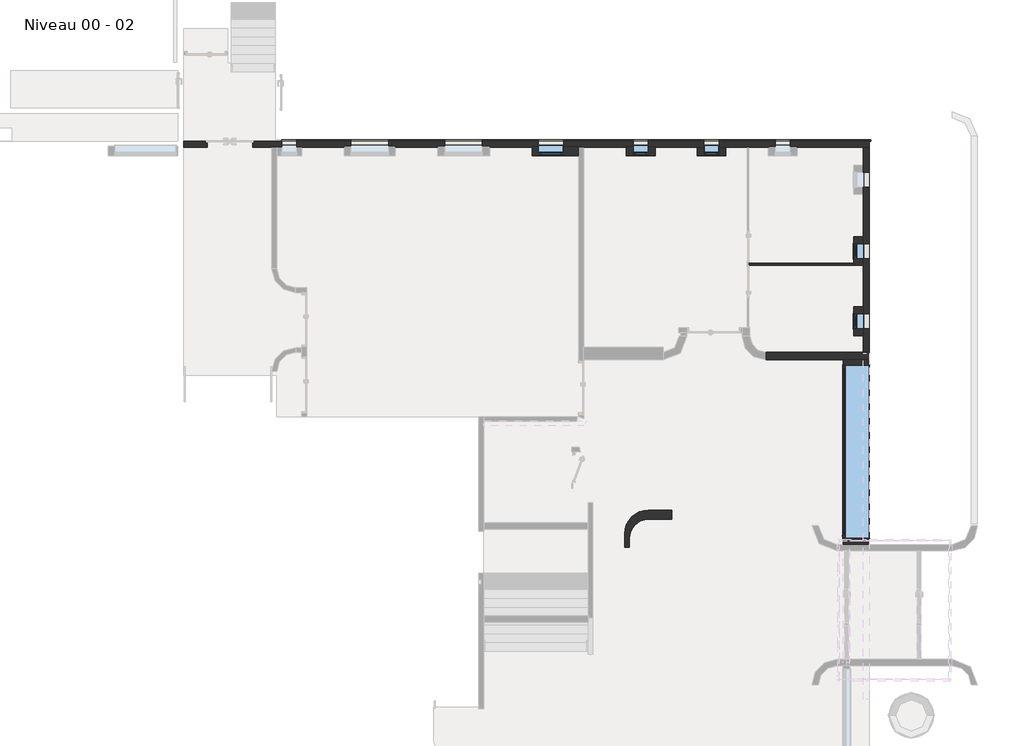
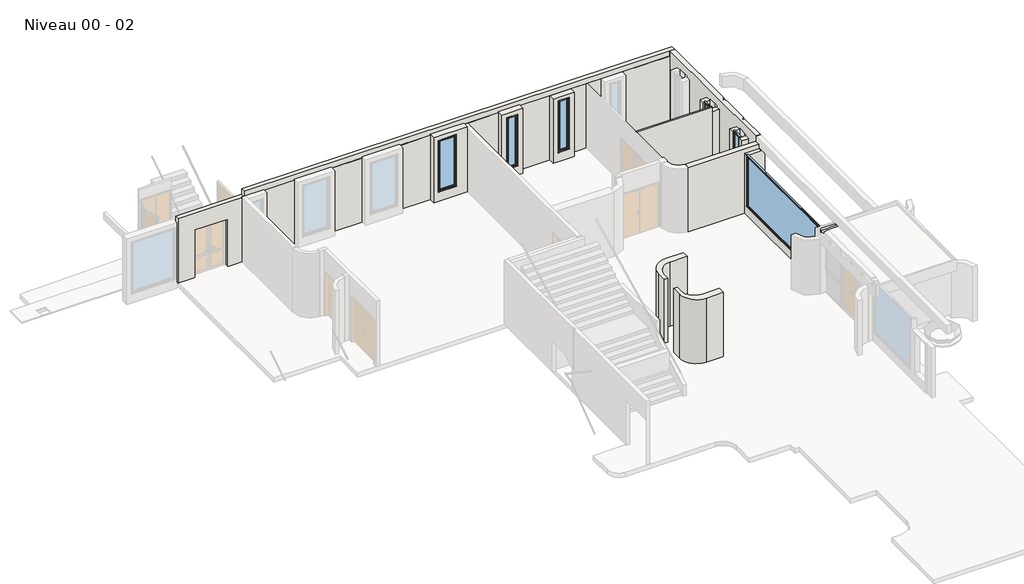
# One storey, part 5 of 6: 12 walls, 6 windows.
"""IFC4 building model written with IfcOpenShell, lengths in millimetres."""

from ifc_helpers import new_model, si_unit, frame, origin, place, context, project, spatial, polyline, circle_curve, outline, extrude, faceted_brep, transform, mapped, element, save
from ifc_brep_helpers import plane_surface, cylinder_surface, advanced_brep
from components import wall_421f56db, window_48_x_240_cm_3727ab81, window_550_x_245_cm_1fba9d42, window_80_x_240_cm_e62f5820

model = new_model("IFC4")

# Units and contexts
model_context = context("Model", 3, world=origin())
ifc_project = project(units=[si_unit("LENGTHUNIT", "METRE", prefix="MILLI")], contexts=[model_context])

# Site, building, storey
site = spatial("IfcSite", under=ifc_project)
building = spatial("IfcBuilding", under=site)
storey = spatial("IfcBuildingStorey", under=building, Name="Niveau 00 - 02", Elevation=893.3082742)

# Walls
placement = place(None, origin())
element("IfcWall", 1, ObjectType="Mur EXE 250- Hach", at=placement, inside=storey, context=model_context, shape_type="SweptSolid", body=[
    extrude(outline(polyline([(893.3082742, 3047.4682683), (3871.8727639, 3047.4682683), (3871.8727639, 2847.4682683), (3871.8727639, -249.7174369), (893.3082742, -249.7174369), (893.3082742, 3047.4682683)])), frame((0.0, 3820.8848607, 0.0), z_axis=(0.0, 1.0, 0.0), x_axis=(0.0, 0.0, 1.0)), (0.0, 0.0, 1.0), 250.0),
])
element("IfcWall", 2, ObjectType="Mur EXE 40- Hach", at=placement, inside=storey, context=model_context, shape_type="Brep", body=[
    faceted_brep([(-15635.8209314, 10780.8848589, 893.3082742), (3047.4682685, 10780.8848589, 893.3082742), (3087.4682683, 10780.8848589, 893.3082742), (3087.4682683, 10780.8848589, 3723.3082742), (3087.4682683, 10780.8848589, 3741.8727639), (-15635.8209314, 10780.8848589, 3741.8727639), (-15635.8209314, 10780.8848589, 3723.3082742), (-15155.8209314, 10780.8848589, 3723.3082742), (-15155.8209314, 10780.8848589, 1323.3082742), (-15635.8209314, 10780.8848589, 1323.3082742), (-12233.9891646, 10780.8848589, 1323.3082742), (-13433.9891646, 10780.8848589, 1323.3082742), (-13433.9891646, 10780.8848589, 3723.3082742), (-12233.9891646, 10780.8848589, 3723.3082742), (-9255.2048789, 10780.8848589, 1323.3082742), (-10455.2048789, 10780.8848589, 1323.3082742), (-10455.2048789, 10780.8848589, 3723.3082742), (-9255.2048789, 10780.8848589, 3723.3082742), (-6675.2048771, 10780.8848589, 1323.3082742), (-7475.2048771, 10780.8848589, 1323.3082742), (-7475.2048771, 10780.8848589, 3723.3082742), (-6675.2048771, 10780.8848589, 3723.3082742), (-3981.2458924, 10780.8848589, 1323.3082742), (-4461.2458924, 10780.8848589, 1323.3082742), (-4461.2458924, 10780.8848589, 3723.3082742), (-3981.2458924, 10780.8848589, 3723.3082742), (530.2678454, 10780.8848589, 1323.3082742), (50.2678454, 10780.8848589, 1323.3082742), (50.2678454, 10780.8848589, 3723.3082742), (530.2678454, 10780.8848589, 3723.3082742), (-1730.6732266, 10780.8848589, 1323.3082742), (-2210.6732266, 10780.8848589, 1323.3082742), (-2210.6732266, 10780.8848589, 3723.3082742), (-1730.6732266, 10780.8848589, 3723.3082742), (3087.4682683, 10820.8848589, 893.3082742), (-15635.8209314, 10820.8848589, 893.3082742), (-15635.8209314, 10820.8848589, 1323.3082742), (-15155.8209314, 10820.8848589, 1323.3082742), (-15155.8209314, 10820.8848589, 3723.3082742), (-15635.8209314, 10820.8848589, 3723.3082742), (-15635.8209314, 10820.8848589, 3741.8727639), (3087.4682683, 10820.8848589, 3741.8727639), (-12233.9891646, 10820.8848589, 1323.3082742), (-12233.9891646, 10820.8848589, 3723.3082742), (-13433.9891646, 10820.8848589, 3723.3082742), (-13433.9891646, 10820.8848589, 1323.3082742), (-9255.2048789, 10820.8848589, 1323.3082742), (-9255.2048789, 10820.8848589, 3723.3082742), (-10455.2048789, 10820.8848589, 3723.3082742), (-10455.2048789, 10820.8848589, 1323.3082742), (-6675.2048771, 10820.8848589, 1323.3082742), (-6675.2048771, 10820.8848589, 3723.3082742), (-7475.2048771, 10820.8848589, 3723.3082742), (-7475.2048771, 10820.8848589, 1323.3082742), (-3981.2458924, 10820.8848589, 1323.3082742), (-3981.2458924, 10820.8848589, 3723.3082742), (-4461.2458924, 10820.8848589, 3723.3082742), (-4461.2458924, 10820.8848589, 1323.3082742), (530.2678454, 10820.8848589, 1323.3082742), (530.2678454, 10820.8848589, 3723.3082742), (50.2678454, 10820.8848589, 3723.3082742), (50.2678454, 10820.8848589, 1323.3082742), (-1730.6732266, 10820.8848589, 1323.3082742), (-1730.6732266, 10820.8848589, 3723.3082742), (-2210.6732266, 10820.8848589, 3723.3082742), (-2210.6732266, 10820.8848589, 1323.3082742)], [[[0, 1, 2, 3, 4, 5, 6, 7, 8, 9], [10, 11, 12, 13], [14, 15, 16, 17], [18, 19, 20, 21], [22, 23, 24, 25], [26, 27, 28, 29], [30, 31, 32, 33]], [[34, 35, 36, 37, 38, 39, 40, 41], [42, 43, 44, 45], [46, 47, 48, 49], [50, 51, 52, 53], [54, 55, 56, 57], [58, 59, 60, 61], [62, 63, 64, 65]], [[2, 1, 0, 35, 34]], [[5, 4, 41, 40]], [[4, 3, 2, 34, 41]], [[5, 40, 39, 6]], [[35, 0, 9, 36]], [[43, 42, 10, 13]], [[44, 43, 13, 12]], [[45, 44, 12, 11]], [[42, 45, 11, 10]], [[47, 46, 14, 17]], [[48, 47, 17, 16]], [[49, 48, 16, 15]], [[46, 49, 15, 14]], [[51, 50, 18, 21]], [[52, 51, 21, 20]], [[53, 52, 20, 19]], [[50, 53, 19, 18]], [[55, 54, 22, 25]], [[56, 55, 25, 24]], [[57, 56, 24, 23]], [[54, 57, 23, 22]], [[59, 58, 26, 29]], [[60, 59, 29, 28]], [[61, 60, 28, 27]], [[58, 61, 27, 26]], [[63, 62, 30, 33]], [[64, 63, 33, 32]], [[65, 64, 32, 31]], [[62, 65, 31, 30]], [[37, 8, 7, 38]], [[38, 7, 6, 39]], [[8, 37, 36, 9]]]),
])
element("IfcWall", 3, ObjectType="Mur EXE 800- Hach 2 faces", at=placement, inside=storey, context=model_context, shape_type="Brep", body=[
    faceted_brep([(3020.3283813, -2049.6253919, 893.3082742), (3020.3283813, 3820.8848607, 893.3082742), (3020.3283813, 3820.8848607, 3673.3082742), (3020.3283813, 3655.8848612, 3673.3082742), (3020.3283813, 3655.8848612, 1313.3082742), (3020.3283813, -1844.1151388, 1313.3082742), (3020.3283813, -1844.1151388, 3673.3082742), (3020.3283813, -2049.6253919, 3673.3082742), (2220.3283813, 3820.8848607, 893.3082742), (2220.3283813, -2049.6253919, 893.3082742), (2220.3283813, -2049.6253919, 3673.3082742), (2220.3283813, -1844.1151388, 3673.3082742), (2220.3283813, -1844.1151388, 1313.3082742), (2220.3283813, 3655.8848612, 1313.3082742), (2220.3283813, 3655.8848612, 3673.3082742), (2220.3283813, 3820.8848607, 3673.3082742), (2847.4682686, -1844.1151388, 3673.3082742), (2847.4682686, 3655.8848612, 3673.3082742), (2847.4682686, -2049.6253919, 3673.3082742), (2847.4682686, 3820.8848607, 3673.3082742)], [[[0, 1, 2, 3, 4, 5, 6, 7]], [[8, 9, 10, 11, 12, 13, 14, 15]], [[1, 0, 9, 8]], [[5, 12, 11, 16, 6]], [[13, 4, 3, 17, 14]], [[12, 5, 4, 13]], [[0, 7, 18, 10, 9]], [[2, 1, 8, 15, 19]], [[15, 14, 17, 19]], [[18, 7, 6, 16]], [[3, 2, 19, 17]], [[10, 18, 16, 11]]]),
])
element("IfcWall", 4, ObjectType="Mur EXE 300- Hach 2 faces", at=placement, inside=storey, context=model_context, shape_type="SweptSolid", body=[
    extrude(outline(polyline([(5512.2622814, 893.3082742), (4592.2622813, 893.3082742), (4592.2622813, 3673.3082742), (4812.2622814, 3673.3082742), (4812.2622814, 1323.3082742), (5292.2622814, 1323.3082742), (5292.2622814, 3673.3082742), (5512.2622814, 3673.3082742), (5512.2622814, 893.3082742)])), frame((2547.4682683, 0.0, 0.0), z_axis=(1.0, 0.0, 0.0), x_axis=(0.0, 1.0, 0.0)), (0.0, 0.0, 1.0), 300.0),
])
element("IfcWall", 5, ObjectType="Mur EXE 300- Hach 2 faces", at=placement, inside=storey, context=model_context, shape_type="SweptSolid", body=[
    extrude(outline(polyline([(7741.4784954, 893.3082742), (6830.6817128, 893.3082742), (6830.6817128, 3673.3082742), (7041.4784953, 3673.3082742), (7041.4784953, 1323.3082742), (7521.4784953, 1323.3082742), (7521.4784953, 3673.3082742), (7741.4784954, 3673.3082742), (7741.4784954, 893.3082742)])), frame((2547.4682683, 0.0, 0.0), z_axis=(1.0, 0.0, 0.0), x_axis=(0.0, 1.0, 0.0)), (0.0, 0.0, 1.0), 300.0),
])
element("IfcWall", 6, ObjectType="@_Générique - Int. 70 mm", at=placement, inside=storey, context=model_context, shape_type="SweptSolid", body=[
    extrude(outline(polyline([(2547.4682683, 6830.6817128), (-778.7390428, 6830.6817128), (-778.7390428, 6900.6817128), (2547.4682683, 6900.6817128), (2547.4682683, 6830.6817128)])), frame((0.0, 0.0, 893.3082742), z_axis=(0.0, 0.0, 1.0), x_axis=(1.0, 0.0, 0.0)), (0.0, 0.0, 1.0), 2978.5644896),
])
wall_shape = wall_421f56db(model_context)
element("IfcWall", 7, ObjectType="Murs 1 : Murs 1", at=placement, inside=storey, context=model_context, shape_type="MappedRepresentation", body=[
    mapped(wall_shape, transform((0.0, 0.0, 0.0), x_axis=(1.0, 0.0, 0.0), y_axis=(0.0, 1.0, 0.0), z_axis=(0.0, 0.0, 1.0))),
])
element("IfcWall", 8, ObjectType="Ext. Voile BA 200", at=placement, inside=storey, context=model_context, shape_type="Brep", body=[
    faceted_brep([(3047.4682685, 10780.8848589, 4121.8727639), (3047.4682685, 10780.8848589, 893.3082742), (-15635.8209314, 10780.8848589, 893.3082742), (-16518.4367882, 10780.8848589, 893.3082742), (-16518.4367882, 10780.8848589, 3143.3082742), (-18048.4367882, 10780.8848589, 3143.3082742), (-18048.4367882, 10780.8848589, 893.3082742), (-18744.0938634, 10780.8848589, 893.3082742), (-18744.0938634, 10780.8848589, 3871.8727639), (-15835.8209314, 10780.8848589, 3871.8727639), (-15835.8209314, 10780.8848589, 4121.8727639), (-15635.8209314, 10780.8848589, 4121.8727639), (-12233.9891646, 10780.8848589, 1323.3082742), (-12233.9891646, 10780.8848589, 3723.3082742), (-13433.9891646, 10780.8848589, 3723.3082742), (-13433.9891646, 10780.8848589, 1323.3082742), (-9255.2048789, 10780.8848589, 1323.3082742), (-9255.2048789, 10780.8848589, 3723.3082742), (-10455.2048789, 10780.8848589, 3723.3082742), (-10455.2048789, 10780.8848589, 1323.3082742), (-6675.2048771, 10780.8848589, 1323.3082742), (-6675.2048771, 10780.8848589, 3723.3082742), (-7475.2048771, 10780.8848589, 3723.3082742), (-7475.2048771, 10780.8848589, 1323.3082742), (-3981.2458924, 10780.8848589, 1323.3082742), (-3981.2458924, 10780.8848589, 3723.3082742), (-4461.2458924, 10780.8848589, 3723.3082742), (-4461.2458924, 10780.8848589, 1323.3082742), (530.2678454, 10780.8848589, 1323.3082742), (530.2678454, 10780.8848589, 3723.3082742), (50.2678454, 10780.8848589, 3723.3082742), (50.2678454, 10780.8848589, 1323.3082742), (-1730.6732266, 10780.8848589, 1323.3082742), (-1730.6732266, 10780.8848589, 3723.3082742), (-2210.6732266, 10780.8848589, 3723.3082742), (-2210.6732266, 10780.8848589, 1323.3082742), (-15155.8209314, 10780.8848589, 1323.3082742), (-15155.8209314, 10780.8848589, 3723.3082742), (-15635.8209314, 10780.8848589, 3723.3082742), (-15635.8209314, 10780.8848589, 1323.3082742), (3047.4682685, 10580.8848589, 893.3082742), (3047.4682685, 10580.8848589, 4121.8727639), (2847.4682683, 10580.8848589, 4121.8727639), (2847.4682683, 10580.8848589, 3871.8727639), (750.2678454, 10580.8848589, 3871.8727639), (750.2678454, 10580.8848589, 893.3082742), (2847.4682685, 10580.8848589, 893.3082742), (-18008.4367882, 10580.8848589, 893.3082742), (-18008.4367882, 10580.8848589, 3103.3082742), (-16558.4367882, 10580.8848589, 3103.3082742), (-16558.4367882, 10580.8848589, 893.3082742), (-15943.9891644, 10580.8848589, 893.3082742), (-15793.9891644, 10580.8848589, 893.3082742), (-14993.9891654, 10580.8848589, 893.3082742), (-13643.9891658, 10580.8848589, 893.3082742), (-13643.9891658, 10580.8848589, 3871.8727639), (-18744.0938634, 10580.8848589, 3871.8727639), (-18744.0938634, 10580.8848589, 3653.3082742), (-18744.0938634, 10580.8848589, 893.3082742), (-15155.8209314, 10580.8848589, 3723.3082742), (-15155.8209314, 10580.8848589, 1323.3082742), (-15635.8209314, 10580.8848589, 1323.3082742), (-15635.8209314, 10580.8848589, 3723.3082742), (-12025.2048797, 10580.8848589, 3871.8727639), (-12025.2048797, 10580.8848589, 893.3082742), (-10675.2048782, 10580.8848589, 893.3082742), (-10675.2048782, 10580.8848589, 3871.8727639), (-9025.2048778, 10580.8848589, 3871.8727639), (-9025.2048778, 10580.8848589, 893.3082742), (-7675.2048763, 10580.8848589, 893.3082742), (-7675.2048763, 10580.8848589, 3871.8727639), (-3761.2458924, 10580.8848589, 3871.8727639), (-3761.2458924, 10580.8848589, 893.3082742), (-2430.6732267, 10580.8848589, 893.3082742), (-1510.6732268, 10580.8848589, 893.3082742), (-828.7390428, 10580.8848589, 893.3082742), (-778.7390428, 10580.8848589, 893.3082742), (-169.7321546, 10580.8848589, 893.3082742), (-169.7321546, 10580.8848589, 3871.8727639), (-778.7390428, 10580.8848589, 3871.8727639), (-828.7390428, 10580.8848589, 3871.8727639), (-1510.6732268, 10580.8848589, 3871.8727639), (-2430.6732267, 10580.8848589, 3871.8727639), (-1730.6732266, 10580.8848589, 3723.3082742), (-1730.6732266, 10580.8848589, 1323.3082742), (-2210.6732266, 10580.8848589, 1323.3082742), (-2210.6732266, 10580.8848589, 3723.3082742), (-6198.0226928, 10580.8848589, 3871.8727639), (-6198.0226928, 10580.8848589, 893.3082742), (-6038.0226928, 10580.8848589, 893.3082742), (-4681.2458924, 10580.8848589, 893.3082742), (-4681.2458924, 10580.8848589, 3871.8727639), (-6038.0226928, 10580.8848589, 3871.8727639), (750.2678454, 10620.8848589, 893.3082742), (-169.7321546, 10620.8848589, 893.3082742), (-3761.2458924, 10620.8848589, 893.3082742), (-4681.2458924, 10620.8848589, 893.3082742), (-6198.0226928, 10620.8848589, 893.3082742), (-7675.2048763, 10620.8848589, 893.3082742), (-9025.2048778, 10620.8848589, 893.3082742), (-10675.2048782, 10620.8848589, 893.3082742), (-12025.2048797, 10620.8848589, 893.3082742), (-13643.9891658, 10620.8848589, 893.3082742), (-16558.4367882, 10730.8848589, 893.3082742), (-16518.4367882, 10730.8848589, 893.3082742), (-18048.4367882, 10730.8848589, 893.3082742), (-18008.4367882, 10730.8848589, 893.3082742), (-15835.8209314, 10590.8848592, 4121.8727639), (2847.4682683, 10590.8848592, 4121.8727639), (-18008.4367882, 10730.8848589, 3103.3082742), (-16558.4367882, 10730.8848589, 3103.3082742), (-18048.4367882, 10730.8848589, 3143.3082742), (-16518.4367882, 10730.8848589, 3143.3082742), (-15835.8209314, 10590.8848592, 3871.8727639), (-13643.9891658, 10590.8848592, 3871.8727639), (-12025.2048797, 10590.8848592, 3871.8727639), (-10675.2048782, 10590.8848592, 3871.8727639), (-9025.2048778, 10590.8848592, 3871.8727639), (-7675.2048763, 10590.8848592, 3871.8727639), (-6198.0226928, 10590.8848592, 3871.8727639), (-4681.2458924, 10590.8848592, 3871.8727639), (-3761.2458924, 10590.8848592, 3871.8727639), (-169.7321546, 10590.8848592, 3871.8727639), (2847.4682683, 10590.8848592, 3871.8727639), (750.2678454, 10590.8848592, 3871.8727639), (-13643.9891658, 10620.8848589, 3921.8727639), (-12025.2048797, 10620.8848589, 3921.8727639), (-12233.9891646, 10620.8848589, 3723.3082742), (-12233.9891646, 10620.8848589, 1323.3082742), (-13433.9891646, 10620.8848589, 1323.3082742), (-13433.9891646, 10620.8848589, 3723.3082742), (-13643.9891658, 10590.8848592, 3921.8727639), (-12025.2048797, 10590.8848592, 3921.8727639), (-10675.2048782, 10620.8848589, 3921.8727639), (-9025.2048778, 10620.8848589, 3921.8727639), (-9255.2048789, 10620.8848589, 3723.3082742), (-9255.2048789, 10620.8848589, 1323.3082742), (-10455.2048789, 10620.8848589, 1323.3082742), (-10455.2048789, 10620.8848589, 3723.3082742), (-10675.2048782, 10590.8848592, 3921.8727639), (-9025.2048778, 10590.8848592, 3921.8727639), (-7675.2048763, 10620.8848589, 3921.8727639), (-6198.0226928, 10620.8848589, 3921.8727639), (-6675.2048771, 10620.8848589, 3723.3082742), (-6675.2048771, 10620.8848589, 1323.3082742), (-7475.2048771, 10620.8848589, 1323.3082742), (-7475.2048771, 10620.8848589, 3723.3082742), (-7675.2048763, 10590.8848592, 3921.8727639), (-6198.0226928, 10590.8848592, 3921.8727639), (-4681.2458924, 10620.8848589, 3921.8727639), (-3761.2458924, 10620.8848589, 3921.8727639), (-3981.2458924, 10620.8848589, 3723.3082742), (-3981.2458924, 10620.8848589, 1323.3082742), (-4461.2458924, 10620.8848589, 1323.3082742), (-4461.2458924, 10620.8848589, 3723.3082742), (-4681.2458924, 10590.8848592, 3921.8727639), (-3761.2458924, 10590.8848592, 3921.8727639), (-169.7321546, 10620.8848589, 3871.8727639), (750.2678454, 10620.8848589, 3871.8727639), (530.2678454, 10620.8848589, 3723.3082742), (530.2678454, 10620.8848589, 1323.3082742), (50.2678454, 10620.8848589, 1323.3082742), (50.2678454, 10620.8848589, 3723.3082742)], [[[0, 1, 2, 3, 4, 5, 6, 7, 8, 9, 10, 11], [12, 13, 14, 15], [16, 17, 18, 19], [20, 21, 22, 23], [24, 25, 26, 27], [28, 29, 30, 31], [32, 33, 34, 35], [36, 37, 38, 39]], [[40, 41, 42, 43, 44, 45, 46]], [[47, 48, 49, 50, 51, 52, 53, 54, 55, 56, 57, 58], [59, 60, 61, 62]], [[63, 64, 65, 66]], [[67, 68, 69, 70]], [[71, 72, 73, 74, 75, 76, 77, 78, 79, 80, 81, 82], [83, 84, 85, 86]], [[87, 88, 89, 90, 91, 92]], [[1, 40, 46, 45, 93, 94, 77, 76, 75, 74, 73, 72, 95, 96, 90, 89, 88, 97, 98, 69, 68, 99, 100, 65, 64, 101, 102, 54, 53, 52, 51, 50, 103, 104, 3, 2]], [[58, 7, 6, 105, 106, 47]], [[41, 0, 11, 10, 107, 108, 42]], [[1, 0, 41, 40]], [[7, 58, 57, 56, 8]], [[109, 110, 49, 48]], [[106, 109, 48, 47]], [[110, 103, 50, 49]], [[111, 105, 6, 5]], [[110, 109, 106, 105, 111, 112, 104, 103]], [[111, 5, 4, 112]], [[104, 112, 4, 3]], [[113, 9, 8, 56, 55, 114]], [[115, 63, 66, 116]], [[117, 67, 70, 118]], [[119, 87, 92, 91, 120]], [[121, 71, 82, 81, 80, 79, 78, 122]], [[43, 123, 124, 44]], [[113, 107, 10, 9]], [[125, 102, 101, 126], [127, 128, 129, 130]], [[102, 125, 131, 114, 55, 54]], [[125, 126, 132, 131]], [[126, 101, 64, 63, 115, 132]], [[13, 12, 128, 127]], [[14, 13, 127, 130]], [[15, 14, 130, 129]], [[12, 15, 129, 128]], [[133, 100, 99, 134], [135, 136, 137, 138]], [[100, 133, 139, 116, 66, 65]], [[133, 134, 140, 139]], [[134, 99, 68, 67, 117, 140]], [[17, 16, 136, 135]], [[18, 17, 135, 138]], [[19, 18, 138, 137]], [[16, 19, 137, 136]], [[141, 98, 97, 142], [143, 144, 145, 146]], [[98, 141, 147, 118, 70, 69]], [[141, 142, 148, 147]], [[142, 97, 88, 87, 119, 148]], [[21, 20, 144, 143]], [[22, 21, 143, 146]], [[23, 22, 146, 145]], [[20, 23, 145, 144]], [[149, 96, 95, 150], [151, 152, 153, 154]], [[96, 149, 155, 120, 91, 90]], [[149, 150, 156, 155]], [[150, 95, 72, 71, 121, 156]], [[25, 24, 152, 151]], [[26, 25, 151, 154]], [[27, 26, 154, 153]], [[24, 27, 153, 152]], [[157, 94, 93, 158], [159, 160, 161, 162]], [[94, 157, 122, 78, 77]], [[158, 93, 45, 44, 124]], [[157, 158, 124, 122]], [[29, 28, 160, 159]], [[30, 29, 159, 162]], [[31, 30, 162, 161]], [[28, 31, 161, 160]], [[33, 32, 84, 83]], [[34, 33, 83, 86]], [[35, 34, 86, 85]], [[32, 35, 85, 84]], [[107, 113, 114, 131, 132, 115, 116, 139, 140, 117, 118, 147, 148, 119, 120, 155, 156, 121, 122, 124, 123, 108]], [[108, 123, 43, 42]], [[36, 60, 59, 37]], [[37, 59, 62, 38]], [[38, 62, 61, 39]], [[60, 36, 39, 61]]]),
])
element("IfcWall", 9, ObjectType="Ext. Voile BA 200", at=placement, inside=storey, context=model_context, shape_type="AdvancedBrep", body=[
    advanced_brep(
    [(3047.4682683, 4070.8848607, 893.3082742), (3047.4682685, 10580.8848589, 893.3082742), (3047.4682685, 10580.8848589, 4121.8727639), (3047.4682684, 6855.177026, 4121.8727639), (3047.4682684, 6855.177026, 4113.3082742), (3047.4682684, 6655.177026, 4113.3082742), (3047.4682684, 6655.177026, 4121.8727639), (3047.4682684, 5355.177026, 4121.8727639), (3047.4682684, 5355.177026, 4113.3082742), (3047.4682683, 5155.177026, 4113.3082742), (3047.4682683, 5155.177026, 4121.8727639), (3047.4682683, 4070.8848607, 4121.8727639), (3047.4682683, 4812.2622814, 1323.3082742), (3047.4682683, 4812.2622814, 3723.3082742), (3047.4682683, 5292.2622814, 3723.3082742), (3047.4682683, 5292.2622814, 1323.3082742), (3047.4682684, 7041.4784953, 1323.3082742), (3047.4682684, 7041.4784953, 3723.3082742), (3047.4682684, 7521.4784953, 3723.3082742), (3047.4682684, 7521.4784953, 1323.3082742), (3047.4682684, 9307.2984927, 1323.3082742), (3047.4682684, 9307.2984927, 3723.3082742), (3047.4682684, 9787.2984927, 3723.3082742), (3047.4682684, 9787.2984927, 1323.3082742), (2847.4682685, 10580.8848589, 893.3082742), (2847.4682684, 10007.2984927, 893.3082742), (2847.4682684, 9087.2984928, 893.3082742), (2847.4682684, 7741.4784954, 893.3082742), (2847.4682684, 6830.6817128, 893.3082742), (2847.4682684, 5512.2622814, 893.3082742), (2847.4682683, 4592.2622813, 893.3082742), (2847.4682683, 4070.8848607, 893.3082742), (2847.4682683, 4070.8848607, 4121.8727639), (2847.4682685, 10580.8848589, 4121.8727639), (2847.4682685, 10580.8848589, 3871.8727639), (2847.4682683, 4812.2622814, 3723.3082742), (2847.4682683, 4812.2622814, 3673.3082742), (2847.4682683, 4812.2622814, 1323.3082742), (2847.4682683, 5292.2622814, 1323.3082742), (2847.4682683, 5292.2622814, 3673.3082742), (2847.4682683, 5292.2622814, 3723.3082742), (2847.4682684, 7041.4784953, 3723.3082742), (2847.4682684, 7041.4784953, 3673.3082742), (2847.4682684, 7041.4784953, 1323.3082742), (2847.4682684, 7521.4784953, 1323.3082742), (2847.4682684, 7521.4784953, 3673.3082742), (2847.4682684, 7521.4784953, 3723.3082742), (2847.4682684, 9307.2984927, 3723.3082742), (2847.4682684, 9307.2984927, 3673.3082742), (2847.4682684, 9307.2984927, 1323.3082742), (2847.4682684, 9787.2984927, 1323.3082742), (2847.4682684, 9787.2984927, 3673.3082742), (2847.4682684, 9787.2984927, 3723.3082742), (3037.4682683, 5155.177026, 4121.8727639), (3037.4682683, 5200.177026, 4121.8727639), (3012.4682683, 5225.177026, 4121.8727639), (2992.2645902, 5225.177026, 4121.8727639), (2992.2645902, 5242.677026, 4121.8727639), (2984.7645902, 5250.177026, 4121.8727639), (2974.1139181, 5250.177026, 4121.8727639), (2974.1139181, 5260.177026, 4121.8727639), (2984.7645902, 5260.177026, 4121.8727639), (2992.2645902, 5267.677026, 4121.8727639), (2992.2645902, 5285.177026, 4121.8727639), (3012.4682683, 5285.177026, 4121.8727639), (3037.4682683, 5310.177026, 4121.8727639), (3037.4682684, 5355.177026, 4121.8727639), (3037.4682684, 6655.177026, 4121.8727639), (3037.4682684, 6700.177026, 4121.8727639), (3012.4682684, 6725.177026, 4121.8727639), (2992.2645902, 6725.177026, 4121.8727639), (2992.2645902, 6742.677026, 4121.8727639), (2984.7645902, 6750.177026, 4121.8727639), (2974.1139181, 6750.177026, 4121.8727639), (2974.1139181, 6760.177026, 4121.8727639), (2984.7645902, 6760.177026, 4121.8727639), (2992.2645902, 6767.677026, 4121.8727639), (2992.2645902, 6785.177026, 4121.8727639), (3012.4682684, 6785.177026, 4121.8727639), (3037.4682684, 6810.177026, 4121.8727639), (3037.4682684, 6855.177026, 4121.8727639), (2984.7645902, 6750.177026, 4113.3082742), (2992.2645902, 6742.677026, 4113.3082742), (2992.2645902, 6725.177026, 4113.3082742), (3012.4682684, 6725.177026, 4113.3082742), (3037.4682684, 6700.177026, 4113.3082742), (3037.4682684, 6655.177026, 4113.3082742), (3037.4682684, 6855.177026, 4113.3082742), (3037.4682684, 6810.177026, 4113.3082742), (3012.4682684, 6785.177026, 4113.3082742), (2992.2645902, 6785.177026, 4113.3082742), (2992.2645902, 6767.677026, 4113.3082742), (2984.7645902, 6760.177026, 4113.3082742), (2974.1139181, 6760.177026, 4113.3082742), (2974.1139181, 6750.177026, 4113.3082742), (2984.7645902, 5250.177026, 4113.3082742), (2992.2645902, 5242.677026, 4113.3082742), (2992.2645902, 5225.177026, 4113.3082742), (3012.4682683, 5225.177026, 4113.3082742), (3037.4682683, 5200.177026, 4113.3082742), (3037.4682683, 5155.177026, 4113.3082742), (3037.4682684, 5355.177026, 4113.3082742), (3037.4682683, 5310.177026, 4113.3082742), (3012.4682683, 5285.177026, 4113.3082742), (2992.2645902, 5285.177026, 4113.3082742), (2992.2645902, 5267.677026, 4113.3082742), (2984.7645902, 5260.177026, 4113.3082742), (2974.1139181, 5260.177026, 4113.3082742), (2974.1139181, 5250.177026, 4113.3082742)],
    [
        (0, 1),
        (1, 2),
        (2, 3),
        (3, 4),
        (4, 5),
        (5, 6),
        (6, 7),
        (7, 8),
        (8, 9),
        (9, 10),
        (10, 11),
        (11, 0),
        (12, 13),
        (13, 14),
        (14, 15),
        (15, 12),
        (16, 17),
        (17, 18),
        (18, 19),
        (19, 16),
        (20, 21),
        (21, 22),
        (22, 23),
        (23, 20),
        (24, 25),
        (25, 26),
        (26, 27),
        (27, 28),
        (28, 29),
        (29, 30),
        (30, 31),
        (31, 32),
        (32, 33),
        (33, 34),
        (34, 24),
        (35, 36),
        (36, 37),
        (37, 38),
        (38, 39),
        (39, 40),
        (40, 35),
        (41, 42),
        (42, 43),
        (43, 44),
        (44, 45),
        (45, 46),
        (46, 41),
        (47, 48),
        (48, 49),
        (49, 50),
        (50, 51),
        (51, 52),
        (52, 47),
        (0, 31),
        (24, 1),
        (32, 11),
        (10, 53),
        (53, 54),
        (54, 55, circle_curve(frame((3012.4682683, 5200.177026, 4121.8727639), z_axis=(0.0, 0.0, 1.0), x_axis=(1.968527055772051e-11, 1.0, 0.0)), 25.0)),
        (55, 56),
        (56, 57),
        (57, 58, circle_curve(frame((2984.7645902, 5242.677026, 4121.8727639), z_axis=(0.0, 0.0, 1.0), x_axis=(1.968527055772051e-11, 1.0, 0.0)), 7.5)),
        (58, 59),
        (59, 60),
        (60, 61),
        (61, 62, circle_curve(frame((2984.7645902, 5267.677026, 4121.8727639), z_axis=(0.0, 0.0, 1.0), x_axis=(1.968527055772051e-11, 1.0, 0.0)), 7.5)),
        (62, 63),
        (63, 64),
        (64, 65, circle_curve(frame((3012.4682683, 5310.177026, 4121.8727639), z_axis=(0.0, 0.0, 1.0), x_axis=(1.968527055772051e-11, 1.0, 0.0)), 25.0)),
        (65, 66),
        (66, 7),
        (6, 67),
        (67, 68),
        (68, 69, circle_curve(frame((3012.4682684, 6700.177026, 4121.8727639), z_axis=(0.0, 0.0, 1.0), x_axis=(1.968527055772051e-11, 1.0, 0.0)), 25.0)),
        (69, 70),
        (70, 71),
        (71, 72, circle_curve(frame((2984.7645902, 6742.677026, 4121.8727639), z_axis=(0.0, 0.0, 1.0), x_axis=(1.968527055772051e-11, 1.0, 0.0)), 7.5)),
        (72, 73),
        (73, 74),
        (74, 75),
        (75, 76, circle_curve(frame((2984.7645902, 6767.677026, 4121.8727639), z_axis=(0.0, 0.0, 1.0), x_axis=(1.968527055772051e-11, 1.0, 0.0)), 7.5)),
        (76, 77),
        (77, 78),
        (78, 79, circle_curve(frame((3012.4682684, 6810.177026, 4121.8727639), z_axis=(0.0, 0.0, 1.0), x_axis=(1.968527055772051e-11, 1.0, 0.0)), 25.0)),
        (79, 80),
        (80, 3),
        (2, 33),
        (81, 82, circle_curve(frame((2984.7645902, 6742.677026, 4113.3082742), z_axis=(0.0, 0.0, -1.0), x_axis=(1.968527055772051e-11, 1.0, 0.0)), 7.5)),
        (82, 83),
        (83, 84),
        (84, 85, circle_curve(frame((3012.4682684, 6700.177026, 4113.3082742), z_axis=(0.0, 0.0, -1.0), x_axis=(1.968527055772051e-11, 1.0, 0.0)), 25.0)),
        (85, 86),
        (86, 5),
        (4, 87),
        (87, 88),
        (88, 89, circle_curve(frame((3012.4682684, 6810.177026, 4113.3082742), z_axis=(0.0, 0.0, -1.0), x_axis=(1.968527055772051e-11, 1.0, 0.0)), 25.0)),
        (89, 90),
        (90, 91),
        (91, 92, circle_curve(frame((2984.7645902, 6767.677026, 4113.3082742), z_axis=(0.0, 0.0, -1.0), x_axis=(1.968527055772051e-11, 1.0, 0.0)), 7.5)),
        (92, 93),
        (93, 94),
        (94, 81),
        (81, 72),
        (71, 82),
        (70, 83),
        (69, 84),
        (68, 85),
        (67, 86),
        (80, 87),
        (79, 88),
        (78, 89),
        (77, 90),
        (76, 91),
        (75, 92),
        (74, 93),
        (73, 94),
        (95, 96, circle_curve(frame((2984.7645902, 5242.677026, 4113.3082742), z_axis=(0.0, 0.0, -1.0), x_axis=(1.968527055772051e-11, 1.0, 0.0)), 7.5)),
        (96, 97),
        (97, 98),
        (98, 99, circle_curve(frame((3012.4682683, 5200.177026, 4113.3082742), z_axis=(0.0, 0.0, -1.0), x_axis=(1.968527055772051e-11, 1.0, 0.0)), 25.0)),
        (99, 100),
        (100, 9),
        (8, 101),
        (101, 102),
        (102, 103, circle_curve(frame((3012.4682683, 5310.177026, 4113.3082742), z_axis=(0.0, 0.0, -1.0), x_axis=(1.968527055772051e-11, 1.0, 0.0)), 25.0)),
        (103, 104),
        (104, 105),
        (105, 106, circle_curve(frame((2984.7645902, 5267.677026, 4113.3082742), z_axis=(0.0, 0.0, -1.0), x_axis=(1.968527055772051e-11, 1.0, 0.0)), 7.5)),
        (106, 107),
        (107, 108),
        (108, 95),
        (95, 58),
        (57, 96),
        (56, 97),
        (55, 98),
        (54, 99),
        (53, 100),
        (66, 101),
        (65, 102),
        (64, 103),
        (63, 104),
        (62, 105),
        (61, 106),
        (60, 107),
        (59, 108),
        (12, 37),
        (35, 13),
        (40, 14),
        (38, 15),
        (16, 43),
        (41, 17),
        (46, 18),
        (44, 19),
        (20, 49),
        (47, 21),
        (52, 22),
        (50, 23),
    ],
    [
        plane_surface(frame((3047.468268, -10636.0291627, 893.3082742), z_axis=(1.0, -1.968527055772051e-11, 0.0), x_axis=(1.968527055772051e-11, 1.0, 0.0))),
        plane_surface(frame((2847.468268, -10636.0291627, 893.3082742), z_axis=(-1.0, 1.968527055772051e-11, 0.0), x_axis=(-1.968527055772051e-11, -1.0, 0.0))),
        plane_surface(frame((3047.4682683, 4070.8848607, 893.3082742), z_axis=(0.0, 0.0, -1.0), x_axis=(-1.0, 1.968652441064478e-11, 0.0))),
        plane_surface(frame((3047.4682685, 10680.8848589, 4121.8727639), z_axis=(0.0, 0.0, 1.0), x_axis=(-1.0, 1.968652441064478e-11, 0.0))),
        plane_surface(frame((3047.4682683, 4070.8848607, 4121.8727639), z_axis=(-1.968652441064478e-11, -1.0, 0.0), x_axis=(-1.0, 1.968652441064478e-11, 0.0))),
        plane_surface(frame((-14028.1532696, 10580.8848589, 893.3082742), z_axis=(0.0, 1.0, 0.0), x_axis=(1.0, 0.0, 0.0))),
        plane_surface(frame((2984.7645902, 6750.177026, 4113.3082742), z_axis=(0.0, 0.0, 1.0), x_axis=(-1.0, 1.968527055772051e-11, 0.0))),
        cylinder_surface(frame((2984.7645902, 6742.677026, 4113.3082742), z_axis=(0.0, 0.0, -1.0), x_axis=(1.968527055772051e-11, 1.0, 0.0)), 7.5),
        plane_surface(frame((2992.2645902, 6742.677026, 7363.3082742), z_axis=(1.0, -1.967463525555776e-11, 0.0), x_axis=(0.0, 0.0, -1.0))),
        plane_surface(frame((2992.2645902, 6725.177026, 7363.3082742), z_axis=(1.968527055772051e-11, 1.0, 0.0), x_axis=(0.0, 0.0, -1.0))),
        cylinder_surface(frame((3012.4682684, 6700.177026, 4113.3082742), z_axis=(0.0, 0.0, -1.0), x_axis=(1.968527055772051e-11, 1.0, 0.0)), 25.0),
        plane_surface(frame((3037.4682684, 6700.177026, 7363.3082742), z_axis=(1.0, -1.968226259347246e-11, 0.0), x_axis=(0.0, 0.0, -1.0))),
        plane_surface(frame((3037.4682684, 6655.177026, 7363.3082742), z_axis=(1.968527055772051e-11, 1.0, 0.0), x_axis=(0.0, 0.0, -1.0))),
        plane_surface(frame((3047.4682684, 6855.177026, 7363.3082742), z_axis=(-1.968527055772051e-11, -1.0, 0.0), x_axis=(0.0, 0.0, -1.0))),
        plane_surface(frame((3037.4682684, 6855.177026, 7363.3082742), z_axis=(1.0, -1.968527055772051e-11, 0.0), x_axis=(0.0, 0.0, -1.0))),
        cylinder_surface(frame((3012.4682684, 6810.177026, 4113.3082742), z_axis=(0.0, 0.0, -1.0), x_axis=(1.968527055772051e-11, 1.0, 0.0)), 25.0),
        plane_surface(frame((3012.4682684, 6785.177026, 7363.3082742), z_axis=(-1.96768959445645e-11, -1.0, 0.0), x_axis=(0.0, 0.0, -1.0))),
        plane_surface(frame((2992.2645902, 6785.177026, 7363.3082742), z_axis=(1.0, -1.968527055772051e-11, 0.0), x_axis=(0.0, 0.0, -1.0))),
        cylinder_surface(frame((2984.7645902, 6767.677026, 4113.3082742), z_axis=(0.0, 0.0, -1.0), x_axis=(1.968527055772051e-11, 1.0, 0.0)), 7.5),
        plane_surface(frame((2984.7645902, 6760.177026, 7363.3082742), z_axis=(-1.9791707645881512e-11, -1.0, 0.0), x_axis=(0.0, 0.0, -1.0))),
        plane_surface(frame((2974.1139181, 6760.177026, 7363.3082742), z_axis=(1.0, -1.968527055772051e-11, 0.0), x_axis=(0.0, 0.0, -1.0))),
        plane_surface(frame((2974.1139181, 6750.177026, 7363.3082742), z_axis=(1.968527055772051e-11, 1.0, 0.0), x_axis=(0.0, 0.0, -1.0))),
        plane_surface(frame((2984.7645902, 5250.177026, 4113.3082742), z_axis=(0.0, 0.0, 1.0), x_axis=(-1.0, 1.968527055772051e-11, 0.0))),
        cylinder_surface(frame((2984.7645902, 5242.677026, 4113.3082742), z_axis=(0.0, 0.0, -1.0), x_axis=(1.968527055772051e-11, 1.0, 0.0)), 7.5),
        plane_surface(frame((2992.2645902, 5242.677026, 7363.3082742), z_axis=(1.0, -1.967463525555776e-11, 0.0), x_axis=(0.0, 0.0, -1.0))),
        plane_surface(frame((2992.2645902, 5225.177026, 7363.3082742), z_axis=(1.968527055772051e-11, 1.0, 0.0), x_axis=(0.0, 0.0, -1.0))),
        cylinder_surface(frame((3012.4682683, 5200.177026, 4113.3082742), z_axis=(0.0, 0.0, -1.0), x_axis=(1.968527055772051e-11, 1.0, 0.0)), 25.0),
        plane_surface(frame((3037.4682683, 5200.177026, 7363.3082742), z_axis=(1.0, -1.968226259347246e-11, 0.0), x_axis=(0.0, 0.0, -1.0))),
        plane_surface(frame((3037.4682683, 5155.177026, 7363.3082742), z_axis=(1.968527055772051e-11, 1.0, 0.0), x_axis=(0.0, 0.0, -1.0))),
        plane_surface(frame((3047.4682684, 5355.177026, 7363.3082742), z_axis=(-1.968527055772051e-11, -1.0, 0.0), x_axis=(0.0, 0.0, -1.0))),
        plane_surface(frame((3037.4682684, 5355.177026, 7363.3082742), z_axis=(1.0, -1.968527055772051e-11, 0.0), x_axis=(0.0, 0.0, -1.0))),
        cylinder_surface(frame((3012.4682683, 5310.177026, 4113.3082742), z_axis=(0.0, 0.0, -1.0), x_axis=(1.968527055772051e-11, 1.0, 0.0)), 25.0),
        plane_surface(frame((3012.4682683, 5285.177026, 7363.3082742), z_axis=(-1.96768959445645e-11, -1.0, 0.0), x_axis=(0.0, 0.0, -1.0))),
        plane_surface(frame((2992.2645902, 5285.177026, 7363.3082742), z_axis=(1.0, -1.968527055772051e-11, 0.0), x_axis=(0.0, 0.0, -1.0))),
        cylinder_surface(frame((2984.7645902, 5267.677026, 4113.3082742), z_axis=(0.0, 0.0, -1.0), x_axis=(1.968527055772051e-11, 1.0, 0.0)), 7.5),
        plane_surface(frame((2984.7645902, 5260.177026, 7363.3082742), z_axis=(-1.9791707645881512e-11, -1.0, 0.0), x_axis=(0.0, 0.0, -1.0))),
        plane_surface(frame((2974.1139181, 5260.177026, 7363.3082742), z_axis=(1.0, -1.968527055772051e-11, 0.0), x_axis=(0.0, 0.0, -1.0))),
        plane_surface(frame((2974.1139181, 5250.177026, 7363.3082742), z_axis=(1.968527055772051e-11, 1.0, 0.0), x_axis=(0.0, 0.0, -1.0))),
        plane_surface(frame((1023.4682683, 4812.2622814, 1323.3082742), z_axis=(0.0, 1.0, 0.0), x_axis=(1.0, 0.0, 0.0))),
        plane_surface(frame((1023.4682683, 4812.2622814, 3723.3082742), z_axis=(0.0, 0.0, -1.0), x_axis=(1.0, 0.0, 0.0))),
        plane_surface(frame((1023.4682683, 5292.2622814, 3723.3082742), z_axis=(0.0, -1.0, 0.0), x_axis=(1.0, 0.0, 0.0))),
        plane_surface(frame((1023.4682683, 5292.2622814, 1323.3082742), z_axis=(0.0, 0.0, 1.0), x_axis=(1.0, 0.0, 0.0))),
        plane_surface(frame((1023.4682683, 7041.4784953, 1323.3082742), z_axis=(0.0, 1.0, 0.0), x_axis=(1.0, 0.0, 0.0))),
        plane_surface(frame((1023.4682683, 7041.4784953, 3723.3082742), z_axis=(0.0, 0.0, -1.0), x_axis=(1.0, 0.0, 0.0))),
        plane_surface(frame((1023.4682683, 7521.4784953, 3723.3082742), z_axis=(0.0, -1.0, 0.0), x_axis=(1.0, 0.0, 0.0))),
        plane_surface(frame((1023.4682683, 7521.4784953, 1323.3082742), z_axis=(0.0, 0.0, 1.0), x_axis=(1.0, 0.0, 0.0))),
        plane_surface(frame((1023.4682683, 9307.2984927, 1323.3082742), z_axis=(0.0, 1.0, 0.0), x_axis=(1.0, 0.0, 0.0))),
        plane_surface(frame((1023.4682683, 9307.2984927, 3723.3082742), z_axis=(0.0, 0.0, -1.0), x_axis=(1.0, 0.0, 0.0))),
        plane_surface(frame((1023.4682683, 9787.2984927, 3723.3082742), z_axis=(0.0, -1.0, 0.0), x_axis=(1.0, 0.0, 0.0))),
        plane_surface(frame((1023.4682683, 9787.2984927, 1323.3082742), z_axis=(0.0, 0.0, 1.0), x_axis=(1.0, 0.0, 0.0))),
    ],
    [
        (0, [[1, 2, 3, 4, 5, 6, 7, 8, 9, 10, 11, 12], [13, 14, 15, 16], [17, 18, 19, 20], [21, 22, 23, 24]]),
        (1, [[25, 26, 27, 28, 29, 30, 31, 32, 33, 34, 35], [36, 37, 38, 39, 40, 41], [42, 43, 44, 45, 46, 47], [48, 49, 50, 51, 52, 53]]),
        (2, [[-1, 54, -31, -30, -29, -28, -27, -26, -25, 55]]),
        (3, [[-33, 56, -11, 57, 58, 59, 60, 61, 62, 63, 64, 65, 66, 67, 68, 69, 70, 71, -7, 72, 73, 74, 75, 76, 77, 78, 79, 80, 81, 82, 83, 84, 85, 86, -3, 87]]),
        (4, [[-12, -56, -32, -54]]),
        (5, [[-2, -55, -35, -34, -87]]),
        (6, [[88, 89, 90, 91, 92, 93, -5, 94, 95, 96, 97, 98, 99, 100, 101, 102]]),
        (7, [[-88, 103, -77, 104]]),
        (8, [[-89, -104, -76, 105]]),
        (9, [[-90, -105, -75, 106]]),
        (10, [[-91, -106, -74, 107]]),
        (11, [[-92, -107, -73, 108]]),
        (12, [[-93, -108, -72, -6]]),
        (13, [[-94, -4, -86, 109]]),
        (14, [[-95, -109, -85, 110]]),
        (15, [[-96, -110, -84, 111]]),
        (16, [[-97, -111, -83, 112]]),
        (17, [[-98, -112, -82, 113]]),
        (18, [[-99, -113, -81, 114]]),
        (19, [[-100, -114, -80, 115]]),
        (20, [[-101, -115, -79, 116]]),
        (21, [[-102, -116, -78, -103]]),
        (22, [[117, 118, 119, 120, 121, 122, -9, 123, 124, 125, 126, 127, 128, 129, 130, 131]]),
        (23, [[-117, 132, -62, 133]]),
        (24, [[-118, -133, -61, 134]]),
        (25, [[-119, -134, -60, 135]]),
        (26, [[-120, -135, -59, 136]]),
        (27, [[-121, -136, -58, 137]]),
        (28, [[-122, -137, -57, -10]]),
        (29, [[-123, -8, -71, 138]]),
        (30, [[-124, -138, -70, 139]]),
        (31, [[-125, -139, -69, 140]]),
        (32, [[-126, -140, -68, 141]]),
        (33, [[-127, -141, -67, 142]]),
        (34, [[-128, -142, -66, 143]]),
        (35, [[-129, -143, -65, 144]]),
        (36, [[-130, -144, -64, 145]]),
        (37, [[-131, -145, -63, -132]]),
        (38, [[146, -37, -36, 147, -13]]),
        (39, [[-147, -41, 148, -14]]),
        (40, [[149, -15, -148, -40, -39]]),
        (41, [[-146, -16, -149, -38]]),
        (42, [[150, -43, -42, 151, -17]]),
        (43, [[-151, -47, 152, -18]]),
        (44, [[153, -19, -152, -46, -45]]),
        (45, [[-150, -20, -153, -44]]),
        (46, [[154, -49, -48, 155, -21]]),
        (47, [[-155, -53, 156, -22]]),
        (48, [[-156, -52, -51, 157, -23]]),
        (49, [[-154, -24, -157, -50]]),
    ],
),
])
element("IfcWall", 10, ObjectType="Ext. Voile BA 300", at=placement, inside=storey, context=model_context, shape_type="Brep", body=[
    faceted_brep([(-6198.0226928, 10620.8848589, 893.3082742), (-7675.2048763, 10620.8848589, 893.3082742), (-7675.2048763, 10620.8848589, 3921.8727639), (-6198.0226928, 10620.8848589, 3921.8727639), (-6675.2048771, 10620.8848589, 1323.3082742), (-6675.2048771, 10620.8848589, 3723.3082742), (-7475.2048771, 10620.8848589, 3723.3082742), (-7475.2048771, 10620.8848589, 1323.3082742), (-7675.2048763, 10320.8848589, 893.3082742), (-6198.0226928, 10320.8848589, 893.3082742), (-6198.0226928, 10320.8848589, 3921.8727639), (-7675.2048763, 10320.8848589, 3921.8727639), (-6675.2048771, 10320.8848589, 3723.3082742), (-6675.2048771, 10320.8848589, 1323.3082742), (-7475.2048771, 10320.8848589, 1323.3082742), (-7475.2048771, 10320.8848589, 3723.3082742), (-6198.0226928, 10580.8848589, 893.3082742), (-7675.2048763, 10580.8848589, 893.3082742), (-7675.2048763, 10590.8848592, 3921.8727639), (-6198.0226928, 10590.8848592, 3921.8727639)], [[[0, 1, 2, 3], [4, 5, 6, 7]], [[8, 9, 10, 11], [12, 13, 14, 15]], [[1, 0, 16, 9, 8, 17]], [[2, 1, 17, 8, 11, 18]], [[3, 2, 18, 11, 10, 19]], [[0, 3, 19, 10, 9, 16]], [[4, 13, 12, 5]], [[5, 12, 15, 6]], [[6, 15, 14, 7]], [[13, 4, 7, 14]]]),
])
element("IfcWall", 11, ObjectType="Ext. Voile BA 300", at=placement, inside=storey, context=model_context, shape_type="Brep", body=[
    faceted_brep([(-3761.2458924, 10620.8848589, 893.3082742), (-4681.2458924, 10620.8848589, 893.3082742), (-4681.2458924, 10620.8848589, 3921.8727639), (-3761.2458924, 10620.8848589, 3921.8727639), (-3981.2458924, 10620.8848589, 1323.3082742), (-3981.2458924, 10620.8848589, 3723.3082742), (-4461.2458924, 10620.8848589, 3723.3082742), (-4461.2458924, 10620.8848589, 1323.3082742), (-4681.2458924, 10320.8848589, 893.3082742), (-3761.2458924, 10320.8848589, 893.3082742), (-3761.2458924, 10320.8848589, 3921.8727639), (-4681.2458924, 10320.8848589, 3921.8727639), (-3981.2458924, 10320.8848589, 3723.3082742), (-3981.2458924, 10320.8848589, 1323.3082742), (-4461.2458924, 10320.8848589, 1323.3082742), (-4461.2458924, 10320.8848589, 3723.3082742), (-3761.2458924, 10580.8848589, 893.3082742), (-4681.2458924, 10580.8848589, 893.3082742), (-4681.2458924, 10590.8848592, 3921.8727639), (-3761.2458924, 10590.8848592, 3921.8727639)], [[[0, 1, 2, 3], [4, 5, 6, 7]], [[8, 9, 10, 11], [12, 13, 14, 15]], [[1, 0, 16, 9, 8, 17]], [[2, 1, 17, 8, 11, 18]], [[3, 2, 18, 11, 10, 19]], [[0, 3, 19, 10, 9, 16]], [[4, 13, 12, 5]], [[5, 12, 15, 6]], [[6, 15, 14, 7]], [[13, 4, 7, 14]]]),
])
element("IfcWall", 12, ObjectType="Ext. Voile BA 300", at=placement, inside=storey, context=model_context, shape_type="SweptSolid", body=[
    extrude(outline(polyline([(893.3082742, -2430.6732267), (893.3082742, -1510.6732268), (3871.8727639, -1510.6732268), (3871.8727639, -2430.6732267), (893.3082742, -2430.6732267)]), holes=[polyline([(3723.3082742, -1730.6732266), (1323.3082742, -1730.6732266), (1323.3082742, -2210.6732266), (3723.3082742, -2210.6732266), (3723.3082742, -1730.6732266)])]), frame((0.0, 10320.8848589, 0.0), z_axis=(0.0, 1.0, 0.0), x_axis=(0.0, 0.0, 1.0)), (0.0, 0.0, 1.0), 260.0),
])

# Windows
window_48_x_240_cm_shape = window_48_x_240_cm_3727ab81(model_context)
element("IfcWindow", 13, ObjectType="Fenêtre type 1 : 48 x 240 cm", at=placement, inside=storey, context=model_context, shape_type="MappedRepresentation", body=[
    mapped(window_48_x_240_cm_shape, transform((-4221.2458924, 10470.8848589, 523.3082742), x_axis=(-1.0, 0.0, 0.0), y_axis=(0.0, -1.0, 0.0), z_axis=(0.0, 0.0, 1.0))),
])
element("IfcWindow", 14, ObjectType="Fenêtre type 1 : 48 x 240 cm", at=placement, inside=storey, context=model_context, shape_type="MappedRepresentation", body=[
    mapped(window_48_x_240_cm_shape, transform((-1970.6732266, 10470.8848589, 523.3082742), x_axis=(-1.0, 0.0, 0.0), y_axis=(0.0, -1.0, 0.0), z_axis=(0.0, 0.0, 1.0))),
])
element("IfcWindow", 15, ObjectType="Fenêtre type 1 : 48 x 240 cm", at=placement, inside=storey, context=model_context, shape_type="MappedRepresentation", body=[
    mapped(window_48_x_240_cm_shape, transform((2697.4682683, 7281.4784953, 523.3082742), x_axis=(0.0, 1.0, 0.0), y_axis=(-1.0, 0.0, 0.0), z_axis=(0.0, 0.0, 1.0))),
])
element("IfcWindow", 16, ObjectType="Fenêtre type 1 : 48 x 240 cm", at=placement, inside=storey, context=model_context, shape_type="MappedRepresentation", body=[
    mapped(window_48_x_240_cm_shape, transform((2697.4682683, 5052.2622814, 523.3082742), x_axis=(0.0, 1.0, 0.0), y_axis=(-1.0, 0.0, 0.0), z_axis=(0.0, 0.0, 1.0))),
])
window_550_x_245_cm_shape = window_550_x_245_cm_1fba9d42(model_context)
element("IfcWindow", 17, ObjectType="Fenêtre type 1 : 550 x 245 cm", at=placement, inside=storey, context=model_context, shape_type="MappedRepresentation", body=[
    mapped(window_550_x_245_cm_shape, transform((2620.3283813, 905.8848612, 513.3082742), x_axis=(0.0, 1.0, 0.0), y_axis=(-1.0, 0.0, 0.0), z_axis=(0.0, 0.0, 1.0))),
])
window_80_x_240_cm_shape = window_80_x_240_cm_e62f5820(model_context)
element("IfcWindow", 18, ObjectType="Fenêtre type 1 : 80 x 240 cm", at=placement, inside=storey, context=model_context, shape_type="MappedRepresentation", body=[
    mapped(window_80_x_240_cm_shape, transform((-7075.2048771, 10470.8848589, 523.3082742), x_axis=(-1.0, 0.0, 0.0), y_axis=(0.0, -1.0, 0.0), z_axis=(0.0, 0.0, 1.0))),
])

save(model, "model.ifc")
